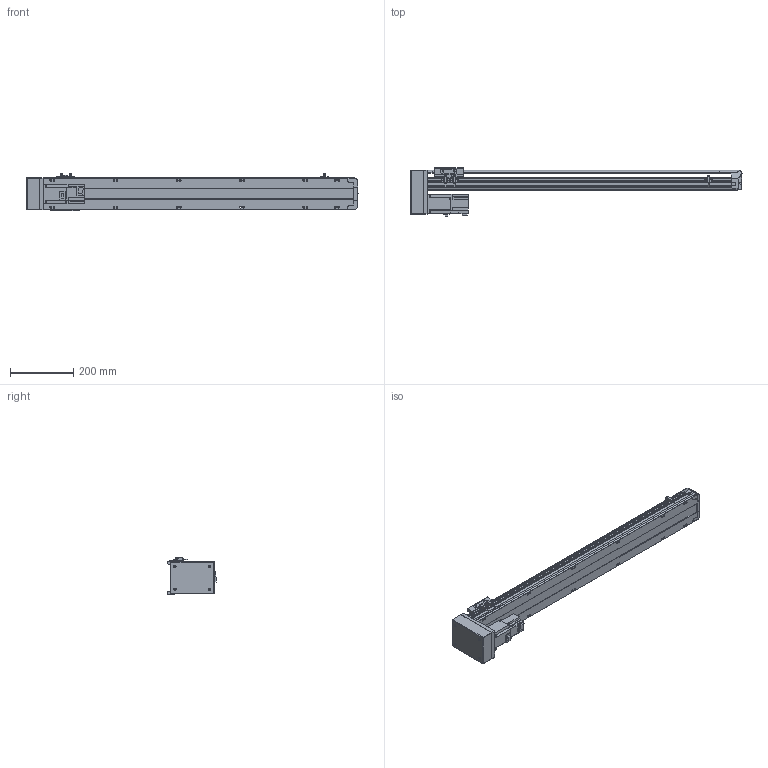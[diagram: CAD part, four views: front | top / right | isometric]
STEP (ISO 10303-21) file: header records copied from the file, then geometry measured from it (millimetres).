
FILE_DESCRIPTION(/* description */ ('STEP AP214'),/* implementation_level */ '2;1');
FILE_NAME(/* name */ 'PSS120-L10-S800-BM-T40-C1-N(0)',/* time_stamp */ '2022-06-06T02:26:54+02:00',/* author */ ('License CC BY-ND 4.0'),/* organization */ ('CADENAS'),/* preprocessor_version */ 'ST-DEVELOPER v18.102',/* originating_system */ 'PARTsolutions',/* authorisation */ ' ');
FILE_SCHEMA (('AUTOMOTIVE_DESIGN {1 0 10303 214 3 1 1}'));
Length unit declared in the file: millimetre
Products named in the file (8): PSS120-L10-S800-BM-T40-C1-N(0); PSS120-S800-BM-N_S; T40-p1; PSS120BM-N_h; PSS120-N_sensor; PSS120-BM-C1-N_sl; PSS120-N_Q; PSS120-S800-BM-C1-N_body
Assembly tree (9 placements, depth 2):
  PSS120-L10-S800-BM-T40-C1-N(0)
    PSS120-S800-BM-N_S
    T40-p1
    PSS120BM-N_h
    PSS120-N_sensor  x3
    PSS120-BM-C1-N_sl
    PSS120-N_Q
    PSS120-S800-BM-C1-N_body
Bounding box: 1049.35 x 151.8 x 117.7 mm (x, y, z)
Volume: 4269662.2 mm3; surface area: 702380.2 mm2
Topology: 9 solids, 9 shells, 841 faces, 2261 edges, 1500 vertices
Faces by surface type: plane 580, cylinder 237, cone 20, sphere 4
Full cylindrical faces by diameter (mm): 2.8 x3, 4 x4, 4.134 x16, 4.4 x2, 4.5 x4, 4.6 x3, 5 x6, 5.5 x19, 7 x2, 7.4 x4, 8 x4, 8.5 x16, 14 x1, 28 x1, 32 x2, 50 x1
Entity records: 22733 total; most frequent: CARTESIAN_POINT 4136, DIRECTION 3779, ORIENTED_EDGE 3694, EDGE_CURVE 1847, LINE 1305, VECTOR 1305, VERTEX_POINT 1286, AXIS2_PLACEMENT_3D 1237
